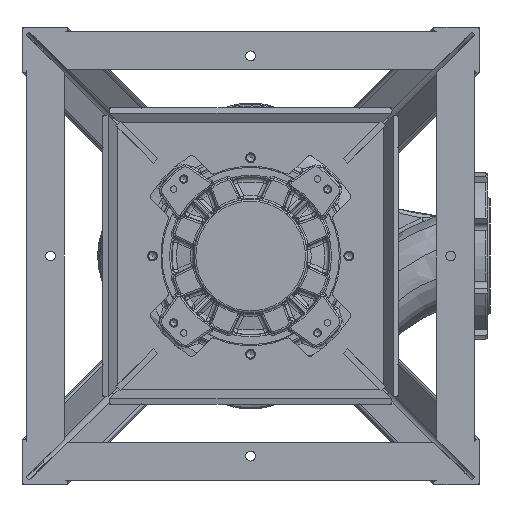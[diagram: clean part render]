
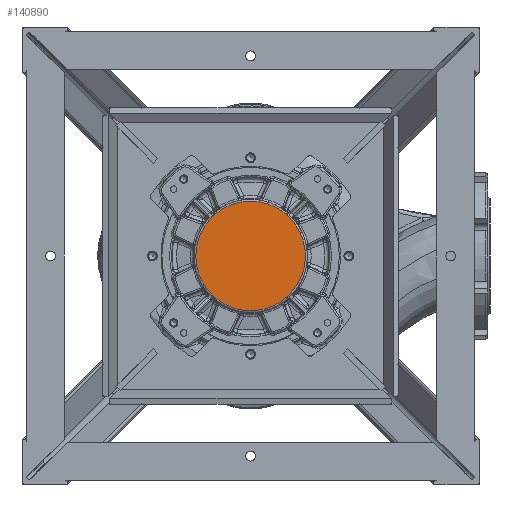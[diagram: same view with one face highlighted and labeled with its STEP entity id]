
A CAD part, front view. The second image highlights one B-rep face of the part: STEP entity #140890.
In plain terms, the highlighted planar face has unit normal (0, -1, 0).
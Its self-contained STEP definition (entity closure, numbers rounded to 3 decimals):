
#3718 =( BOUNDED_CURVE ( )  B_SPLINE_CURVE ( 3, ( #93823, #78335, #96753, #67571, #54482, #41952, #94972 ),
 .UNSPECIFIED., .T., .T. ) 
 B_SPLINE_CURVE_WITH_KNOTS ( ( 4, 3, 4 ),
 ( 0., 0.5, 1. ),
 .UNSPECIFIED. ) 
 CURVE ( )  GEOMETRIC_REPRESENTATION_ITEM ( )  RATIONAL_B_SPLINE_CURVE ( ( 1., 0.333, 0.333, 1., 0.333, 0.333, 1. ) ) 
 REPRESENTATION_ITEM ( '' )  );
#26128 = CARTESIAN_POINT ( 'NONE',  ( 51.326, -18., 51.326 ) ) ;
#27316 = EDGE_LOOP ( 'NONE', ( #46753 ) ) ;
#33265 = DIRECTION ( 'NONE',  ( 0., 1., 0. ) ) ;
#41952 = CARTESIAN_POINT ( 'NONE',  ( -51.326, -18., 153.978 ) ) ;
#42262 = CARTESIAN_POINT ( 'NONE',  ( -53.033, -18., 53.033 ) ) ;
#46753 = ORIENTED_EDGE ( 'NONE', *, *, #96963, .F. ) ;
#54482 = CARTESIAN_POINT ( 'NONE',  ( -153.978, -18., 51.326 ) ) ;
#67571 = CARTESIAN_POINT ( 'NONE',  ( -51.326, -18., -51.326 ) ) ;
#71378 = DIRECTION ( 'NONE',  ( 0.707, 0., 0.707 ) ) ;
#78335 = CARTESIAN_POINT ( 'NONE',  ( 153.978, -18., -51.326 ) ) ;
#93823 = CARTESIAN_POINT ( 'NONE',  ( 51.326, -18., 51.326 ) ) ;
#94104 = FACE_OUTER_BOUND ( 'NONE', #27316, .T. ) ;
#94972 = CARTESIAN_POINT ( 'NONE',  ( 51.326, -18., 51.326 ) ) ;
#96477 = PLANE ( 'NONE',  #119216 ) ;
#96753 = CARTESIAN_POINT ( 'NONE',  ( 51.326, -18., -153.978 ) ) ;
#96963 = EDGE_CURVE ( 'NONE', #175580, #175580, #3718, .T. ) ;
#119216 = AXIS2_PLACEMENT_3D ( 'NONE', #42262, #33265, #71378 ) ;
#140890 = ADVANCED_FACE ( 'NONE', ( #94104 ), #96477, .F. ) ;
#175580 = VERTEX_POINT ( 'NONE', #26128 ) ;
